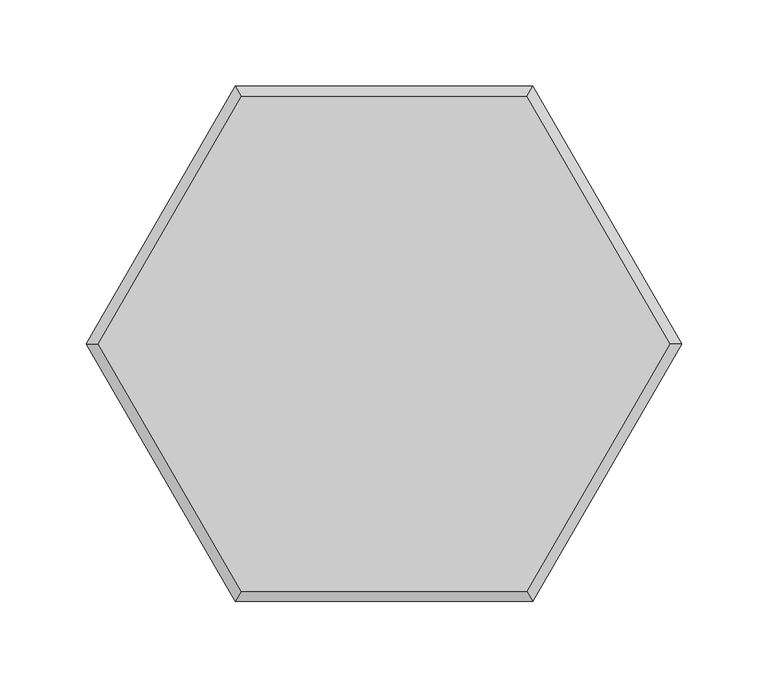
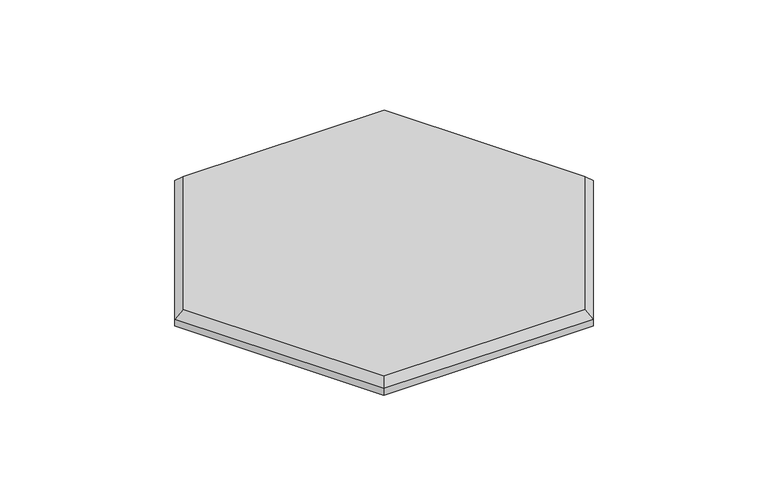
"""IFC4 building model written with IfcOpenShell, lengths in millimetres: proxy geometry, Wall_Clematis 2.3dm."""

from ifc_helpers import new_model, si_unit, origin, place, context, project, spatial, faceted_brep, source, transform, mapped, element, save


def generic_models_f8422afb(model_context):
    return source(origin(), model_context, "Body", "Brep", [
        faceted_brep([(-1549.2751472, 220.9999041, 0.0), (-1376.9361472, 220.9999041, 0.0), (-1290.7666472, 71.7499521, 0.0), (-1376.9361472, -77.5, 0.0), (-1549.2751472, -77.5, 0.0), (-1635.4446472, 71.7499521, 0.0), (-1549.2751472, 220.9999041, 6.0), (-1635.4446472, 71.7499521, 6.0), (-1549.2751472, -77.5, 6.0), (-1376.9361472, -77.5, 6.0), (-1290.7666472, 71.7499521, 6.0), (-1376.9361472, 220.9999041, 6.0), (-1380.4002488, 214.9999041, 12.0), (-1545.8110456, 214.9999041, 12.0), (-1628.516444, 71.7499521, 12.0), (-1545.8110456, -71.5, 12.0), (-1380.4002488, -71.5, 12.0), (-1297.6948504, 71.7499521, 12.0)], [[[0, 1, 2, 3, 4, 5]], [[6, 0, 5, 7]], [[7, 5, 4, 8]], [[8, 4, 3, 9]], [[9, 3, 2, 10]], [[10, 2, 1, 11]], [[11, 1, 0, 6]], [[12, 13, 14, 15, 16, 17]], [[6, 7, 14, 13]], [[7, 8, 15, 14]], [[8, 9, 16, 15]], [[9, 10, 17, 16]], [[10, 11, 12, 17]], [[11, 6, 13, 12]]]),
    ])


if __name__ == "__main__":
    model = new_model("IFC4")
    model_context = context("Model", 3, world=origin())
    ifc_project = project(units=[si_unit("LENGTHUNIT", "METRE", prefix="MILLI")], contexts=[model_context])
    site = spatial("IfcSite", under=ifc_project)
    building = spatial("IfcBuilding", under=site)
    placement = place(None, origin())
    generic_models_shape = generic_models_f8422afb(model_context)
    element("IfcBuildingElementProxy", 1, Name="Wall_Clematis 2.3dm", ObjectType="Wall_Clematis 2.3dm", at=placement, inside=building, context=model_context, shape_type="MappedRepresentation", body=[
        mapped(generic_models_shape, transform((0.0, 0.0, 0.0), x_axis=(1.0, 0.0, 0.0), y_axis=(0.0, 1.0, 0.0), z_axis=(0.0, 0.0, 1.0))),
    ])
    save(model, "model.ifc")
